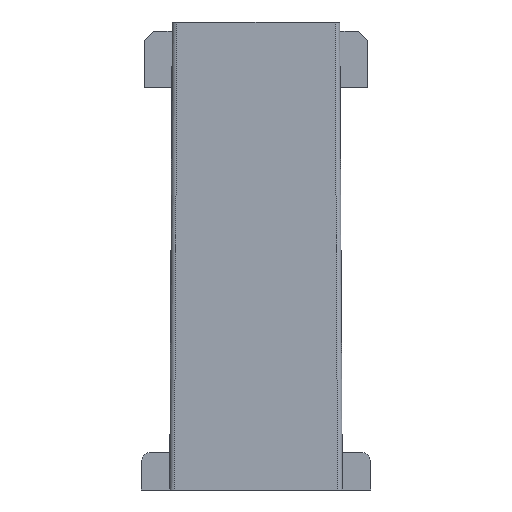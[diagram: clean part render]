
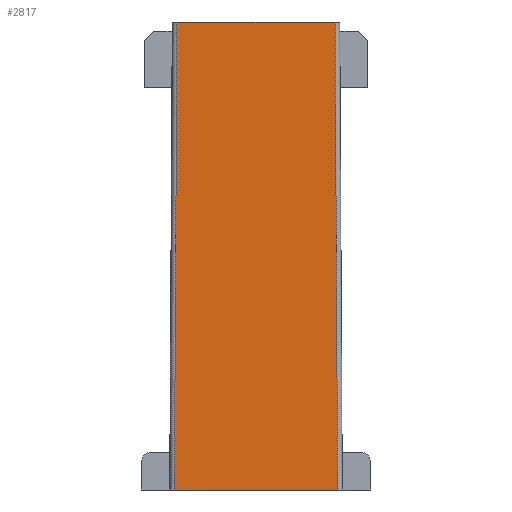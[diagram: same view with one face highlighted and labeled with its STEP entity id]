
A CAD part, front view. The second image highlights one B-rep face of the part: STEP entity #2817.
In plain terms, the highlighted planar face has unit normal (0, -1, 0).
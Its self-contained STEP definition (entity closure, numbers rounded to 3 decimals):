
#610=DIRECTION('',(1.,0.,0.));
#611=VECTOR('',#610,8.68);
#612=CARTESIAN_POINT('',(-4.34,-4.86,-24.89));
#613=LINE('',#612,#611);
#814=DIRECTION('',(1.,0.,0.));
#815=VECTOR('',#814,8.409);
#816=CARTESIAN_POINT('',(-4.204,-4.86,0.));
#817=LINE('',#816,#815);
#818=DIRECTION('',(-0.005,0.,1.));
#819=VECTOR('',#818,24.89);
#820=CARTESIAN_POINT('',(4.34,-4.86,-24.89));
#821=LINE('',#820,#819);
#822=DIRECTION('',(-0.005,0.,-1.));
#823=VECTOR('',#822,24.89);
#824=CARTESIAN_POINT('',(-4.204,-4.86,0.));
#825=LINE('',#824,#823);
#2072=CARTESIAN_POINT('',(-4.204,-4.86,0.));
#2073=CARTESIAN_POINT('',(4.204,-4.86,0.));
#2074=VERTEX_POINT('',#2072);
#2075=VERTEX_POINT('',#2073);
#2076=CARTESIAN_POINT('',(-4.34,-4.86,-24.89));
#2077=CARTESIAN_POINT('',(4.34,-4.86,-24.89));
#2078=VERTEX_POINT('',#2076);
#2079=VERTEX_POINT('',#2077);
#2805=CARTESIAN_POINT('',(-4.59,-4.86,0.));
#2806=DIRECTION('',(0.,-1.,0.));
#2807=DIRECTION('',(0.,0.,-1.));
#2808=AXIS2_PLACEMENT_3D('',#2805,#2806,#2807);
#2809=PLANE('',#2808);
#2810=ORIENTED_EDGE('',*,*,#2187,.T.);
#2812=ORIENTED_EDGE('',*,*,#2811,.F.);
#2813=ORIENTED_EDGE('',*,*,#2587,.F.);
#2814=ORIENTED_EDGE('',*,*,#2577,.F.);
#2815=EDGE_LOOP('',(#2810,#2812,#2813,#2814));
#2816=FACE_OUTER_BOUND('',#2815,.F.);
#2187=EDGE_CURVE('',#2074,#2075,#817,.T.);
#2577=EDGE_CURVE('',#2074,#2078,#825,.T.);
#2587=EDGE_CURVE('',#2078,#2079,#613,.T.);
#2811=EDGE_CURVE('',#2079,#2075,#821,.T.);
#2817=ADVANCED_FACE('',(#2816),#2809,.T.);
